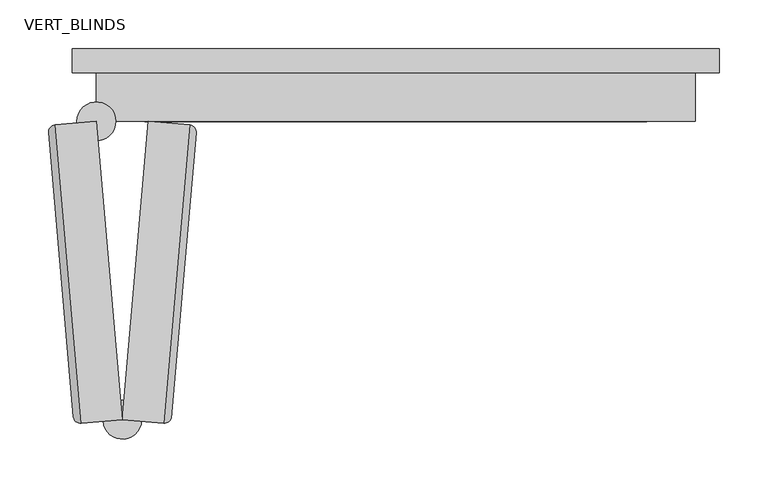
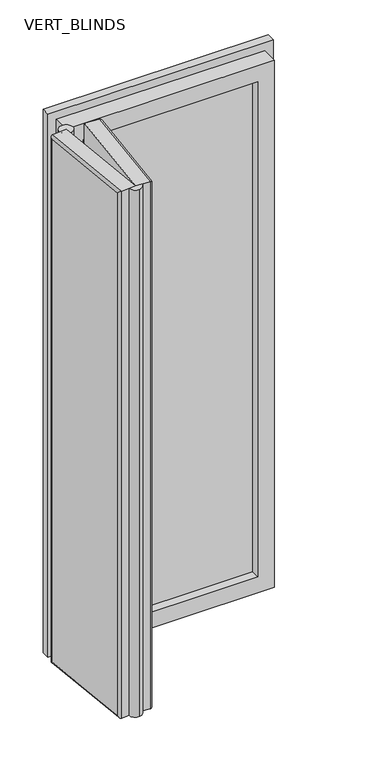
"""IFC4 building model written with IfcOpenShell, lengths in millimetres: plate geometry, CURTAIN PANEL VODA STYLE BIFOLDING : VERT_BLINDS."""

from ifc_helpers import new_model, si_unit, point, frame, frame_2d, origin, place, context, project, spatial, polyline, circle_curve, ellipse_curve, trimmed, segment, composite_curve, outline, extrude, faceted_brep, source, transform, mapped, element, save
from ifc_brep_helpers import plane_surface, cylinder_surface, advanced_brep


def vert_blinds_15b416f4(model_context):
    return source(origin(), model_context, "Body", "SolidModel", [
        advanced_brep(
        [(-308.3333333, -50.0, 1675.0), (-350.671608, -53.7041191, 1675.0), (-323.7985873, -360.864151, 1675.0), (-281.4603127, -357.1600319, 1675.0), (-281.4603127, -357.1600319, 25.0), (-323.7985873, -360.864151, 25.0), (-350.671608, -53.7041191, 25.0), (-308.3333333, -50.0, 25.0), (-357.4894002, -61.8292474, 32.5), (-331.9237156, -354.0463588, 32.5), (-331.9237156, -354.0463588, 1667.5), (-357.4894002, -61.8292474, 1667.5)],
        [
            (0, 1),
            (1, 2),
            (2, 3),
            (3, 0),
            (4, 5),
            (5, 6),
            (6, 7),
            (7, 4),
            (2, 5),
            (4, 3),
            (8, 9),
            (9, 10),
            (10, 11),
            (11, 8),
            (6, 1),
            (0, 7),
            (11, 1, ellipse_curve(frame((-350.0179399, -61.1755793, 1667.5), z_axis=(-0.0616284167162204, 0.7044160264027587, -0.7071067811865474), x_axis=(0.06162841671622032, -0.7044160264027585, -0.7071067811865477)), 10.6066017, 7.5)),
            (6, 8, ellipse_curve(frame((-350.0179399, -61.1755793, 32.5), z_axis=(-0.06162841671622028, 0.7044160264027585, 0.7071067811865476), x_axis=(-0.06162841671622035, 0.7044160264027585, -0.7071067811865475)), 10.6066017, 7.5)),
            (5, 9, ellipse_curve(frame((-324.4522554, -353.3926907, 32.5), z_axis=(-0.061628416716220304, 0.7044160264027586, -0.7071067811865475), x_axis=(0.061628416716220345, -0.7044160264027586, -0.7071067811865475)), 10.6066017, 7.5)),
            (2, 10, ellipse_curve(frame((-324.4522554, -353.3926907, 1667.5), z_axis=(0.0616284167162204, -0.7044160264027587, -0.7071067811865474), x_axis=(0.06162841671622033, -0.7044160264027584, 0.7071067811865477)), 10.6066017, 7.5)),
        ],
        [
            plane_surface(frame((-331.2700476, -361.517819, 1675.0), z_axis=(0.0, 0.0, 1.0), x_axis=(-0.9961946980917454, -0.0871557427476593, 0.0))),
            plane_surface(frame((-331.2700476, -361.517819, 25.0), z_axis=(0.0, 0.0, -1.0), x_axis=(0.9961946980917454, 0.0871557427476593, 0.0))),
            plane_surface(frame((-281.4603127, -357.1600319, 1675.0), z_axis=(0.0871557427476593, -0.9961946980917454, 0.0), x_axis=(0.0, 0.0, -1.0))),
            plane_surface(frame((-331.2700476, -361.517819, 1675.0), z_axis=(-0.9961946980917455, -0.08715574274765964, 0.0), x_axis=(0.0, 0.0, -1.0))),
            plane_surface(frame((-358.1430682, -54.3577871, 1675.0), z_axis=(-0.08715574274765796, 0.9961946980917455, 0.0), x_axis=(0.0, 0.0, -1.0))),
            plane_surface(frame((-308.3333333, -50.0, 1675.0), z_axis=(0.9961946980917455, 0.08715574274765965, 0.0), x_axis=(0.0, 0.0, -1.0))),
            cylinder_surface(frame((-350.0179399, -61.1755793, 1675.0), z_axis=(0.0, 0.0, -1.0000000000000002), x_axis=(0.9961946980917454, 0.08715574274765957, 0.0)), 7.5),
            cylinder_surface(frame((-350.671608, -53.7041191, 32.5), z_axis=(0.08715574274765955, -0.9961946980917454, 0.0), x_axis=(0.9961946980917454, 0.08715574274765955, 0.0)), 7.5),
            cylinder_surface(frame((-324.4522554, -353.3926907, 25.0), z_axis=(0.0, 0.0, 1.0000000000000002), x_axis=(0.9961946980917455, 0.08715574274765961, 0.0)), 7.5),
            cylinder_surface(frame((-323.7985873, -360.864151, 1667.5), z_axis=(-0.08715574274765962, 0.9961946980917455, 0.0), x_axis=(0.9961946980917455, 0.08715574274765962, 0.0)), 7.5),
        ],
        [
            (0, [[1, 2, 3, 4]]),
            (1, [[5, 6, 7, 8]]),
            (2, [[-3, 9, -5, 10]]),
            (3, [[11, 12, 13, 14]]),
            (4, [[-7, 15, -1, 16]]),
            (5, [[-10, -8, -16, -4]]),
            (6, [[-14, 17, -15, 18]]),
            (7, [[-6, 19, -11, -18]]),
            (8, [[-9, 20, -12, -19]]),
            (9, [[-13, -20, -2, -17]]),
        ],
    ),
        advanced_brep(
        [(-281.4603127, -357.1600319, 1675.0), (-239.122038, -360.864151, 1675.0), (-212.2490173, -53.7041191, 1675.0), (-254.587292, -50.0, 1675.0), (-254.587292, -50.0, 25.0), (-212.2490173, -53.7041191, 25.0), (-239.122038, -360.864151, 25.0), (-281.4603127, -357.1600319, 25.0), (-230.9969097, -354.0463588, 32.5), (-205.4312251, -61.8292474, 32.5), (-205.4312251, -61.8292474, 1667.5), (-230.9969097, -354.0463588, 1667.5)],
        [
            (0, 1),
            (1, 2),
            (2, 3),
            (3, 0),
            (4, 5),
            (5, 6),
            (6, 7),
            (7, 4),
            (2, 5),
            (4, 3),
            (8, 9),
            (9, 10),
            (10, 11),
            (11, 8),
            (6, 1),
            (0, 7),
            (11, 1, ellipse_curve(frame((-238.4683699, -353.3926907, 1667.5), z_axis=(-0.061628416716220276, -0.7044160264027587, -0.7071067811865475), x_axis=(0.06162841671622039, 0.7044160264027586, -0.7071067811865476)), 10.6066017, 7.5)),
            (6, 8, ellipse_curve(frame((-238.4683699, -353.3926907, 32.5), z_axis=(-0.06162841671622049, -0.7044160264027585, 0.7071067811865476), x_axis=(-0.06162841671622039, -0.7044160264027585, -0.7071067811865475)), 10.6066017, 7.5)),
            (5, 9, ellipse_curve(frame((-212.9026854, -61.1755793, 32.5), z_axis=(-0.061628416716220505, -0.7044160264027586, -0.7071067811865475), x_axis=(0.06162841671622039, 0.7044160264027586, -0.7071067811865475)), 10.6066017, 7.5)),
            (2, 10, ellipse_curve(frame((-212.9026854, -61.1755793, 1667.5), z_axis=(0.061628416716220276, 0.7044160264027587, -0.7071067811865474), x_axis=(0.061628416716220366, 0.7044160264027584, 0.7071067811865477)), 10.6066017, 7.5)),
        ],
        [
            plane_surface(frame((-204.7775571, -54.3577871, 1675.0), z_axis=(0.0, 0.0, 1.0), x_axis=(0.9961946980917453, -0.08715574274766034, 0.0))),
            plane_surface(frame((-204.7775571, -54.3577871, 25.0), z_axis=(0.0, 0.0, -1.0), x_axis=(-0.9961946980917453, 0.08715574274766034, 0.0))),
            plane_surface(frame((-254.587292, -50.0, 1675.0), z_axis=(0.08715574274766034, 0.9961946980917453, 0.0), x_axis=(0.0, 0.0, -1.0))),
            plane_surface(frame((-204.7775571, -54.3577871, 1675.0), z_axis=(0.9961946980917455, -0.08715574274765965, 0.0), x_axis=(0.0, 0.0, -1.0))),
            plane_surface(frame((-231.6505777, -361.517819, 1675.0), z_axis=(-0.08715574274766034, -0.9961946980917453, 0.0), x_axis=(0.0, 0.0, -1.0))),
            plane_surface(frame((-281.4603127, -357.1600319, 1675.0), z_axis=(-0.9961946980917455, 0.08715574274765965, 0.0), x_axis=(0.0, 0.0, -1.0))),
            cylinder_surface(frame((-238.4683699, -353.3926907, 1675.0), z_axis=(0.0, 0.0, -1.0000000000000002), x_axis=(-0.9961946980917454, 0.08715574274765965, 0.0)), 7.5),
            cylinder_surface(frame((-239.122038, -360.864151, 32.5), z_axis=(0.08715574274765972, 0.9961946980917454, 0.0), x_axis=(-0.9961946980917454, 0.08715574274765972, 0.0)), 7.5),
            cylinder_surface(frame((-212.9026854, -61.1755793, 25.0), z_axis=(0.0, 0.0, 1.0000000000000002), x_axis=(-0.9961946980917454, 0.08715574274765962, 0.0)), 7.5),
            cylinder_surface(frame((-212.2490173, -53.7041191, 1667.5), z_axis=(-0.08715574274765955, -0.9961946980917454, 0.0), x_axis=(-0.9961946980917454, 0.08715574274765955, 0.0)), 7.5),
        ],
        [
            (0, [[1, 2, 3, 4]]),
            (1, [[5, 6, 7, 8]]),
            (2, [[-3, 9, -5, 10]]),
            (3, [[11, 12, 13, 14]]),
            (4, [[-7, 15, -1, 16]]),
            (5, [[-10, -8, -16, -4]]),
            (6, [[-14, 17, -15, 18]]),
            (7, [[-6, 19, -11, -18]]),
            (8, [[-9, 20, -12, -19]]),
            (9, [[-13, -20, -2, -17]]),
        ],
    ),
        extrude(outline(composite_curve([segment(trimmed(circle_curve(frame_2d((-308.3333333, -50.0)), 20.0), [point((-328.3333333, -50.0))], [point((-288.3333333, -50.0))], False, "CARTESIAN"), True, "CONTINUOUS"), segment(trimmed(circle_curve(frame_2d((-308.3333333, -50.0)), 20.0), [point((-288.3333333, -50.0))], [point((-328.3333333, -50.0))], False, "CARTESIAN"), True, "CONTINUOUS")], self_intersect=False)), frame((0.0, 0.0, 25.0), z_axis=(0.0, 0.0, 1.0), x_axis=(1.0, 0.0, 0.0)), (0.0, 0.0, 1.0), 1650.0),
        extrude(outline(composite_curve([segment(trimmed(circle_curve(frame_2d((-281.4603127, -357.1600319)), 20.0), [point((-283.2034275, -337.2361379))], [point((-279.7171978, -377.0839259))], False, "CARTESIAN"), True, "CONTINUOUS"), segment(trimmed(circle_curve(frame_2d((-281.4603127, -357.1600319)), 20.0), [point((-279.7171978, -377.0839259))], [point((-283.2034275, -337.2361379))], False, "CARTESIAN"), True, "CONTINUOUS")], self_intersect=False)), frame((0.0, 0.0, 25.0), z_axis=(0.0, 0.0, 1.0), x_axis=(1.0, 0.0, 0.0)), (0.0, 0.0, 1.0), 1650.0),
        extrude(outline(polyline([(-258.3333333, -24.0), (-258.3333333, 0.0), (258.3333333, 0.0), (258.3333333, -24.0), (-258.3333333, -24.0)])), frame((0.0, 0.0, 75.0), z_axis=(0.0, 0.0, 1.0), x_axis=(1.0, 0.0, 0.0)), (0.0, 0.0, 1.0), 1550.0),
        faceted_brep([(-258.3333333, -50.0, 1625.0), (-258.3333333, -50.0, 75.0), (-258.3333333, 25.0, 75.0), (-258.3333333, 25.0, 1625.0), (-333.3333333, 25.0, 1700.0), (-333.3333333, 25.0, 0.0), (-333.3333333, 0.0, 0.0), (-333.3333333, 0.0, 1700.0), (-308.3333333, 0.0, 1675.0), (-308.3333333, 0.0, 25.0), (-308.3333333, -50.0, 25.0), (-308.3333333, -50.0, 1675.0), (258.3333333, -50.0, 75.0), (258.3333333, 25.0, 75.0), (333.3333333, 25.0, 0.0), (333.3333333, 0.0, 0.0), (308.3333333, 0.0, 25.0), (308.3333333, -50.0, 25.0), (258.3333333, -50.0, 1625.0), (258.3333333, 25.0, 1625.0), (333.3333333, 25.0, 1700.0), (333.3333333, 0.0, 1700.0), (308.3333333, 0.0, 1675.0), (308.3333333, -50.0, 1675.0)], [[[0, 1, 2, 3]], [[4, 5, 6, 7]], [[8, 9, 10, 11]], [[1, 12, 13, 2]], [[5, 14, 15, 6]], [[9, 16, 17, 10]], [[12, 18, 19, 13]], [[14, 20, 21, 15]], [[16, 22, 23, 17]], [[11, 10, 17, 23], [1, 0, 18, 12]], [[18, 0, 3, 19]], [[5, 4, 20, 14], [3, 2, 13, 19]], [[20, 4, 7, 21]], [[7, 6, 15, 21], [9, 8, 22, 16]], [[22, 8, 11, 23]]]),
    ])


if __name__ == "__main__":
    model = new_model("IFC4")
    model_context = context("Model", 3, world=origin())
    ifc_project = project(units=[si_unit("LENGTHUNIT", "METRE", prefix="MILLI")], contexts=[model_context])
    site = spatial("IfcSite", under=ifc_project)
    building = spatial("IfcBuilding", under=site)
    placement = place(None, origin())
    vert_blinds_shape = vert_blinds_15b416f4(model_context)
    element("IfcPlate", 1, ObjectType="CURTAIN PANEL VODA STYLE BIFOLDING : VERT_BLINDS", at=placement, inside=building, context=model_context, shape_type="MappedRepresentation", body=[
        mapped(vert_blinds_shape, transform((0.0, 0.0, 0.0), x_axis=(1.0, 0.0, 0.0), y_axis=(0.0, 1.0, 0.0), z_axis=(0.0, 0.0, 1.0))),
    ])
    save(model, "model.ifc")
